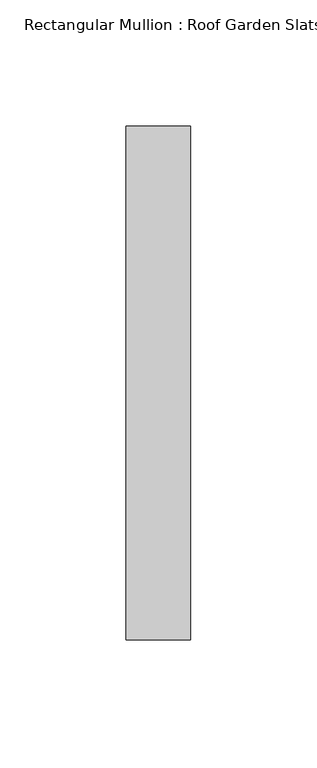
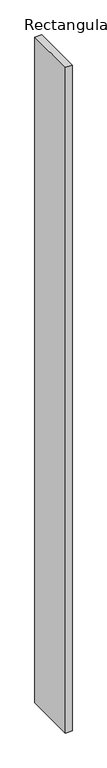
"""IFC4 building model written with IfcOpenShell, lengths in millimetres: member geometry, Rectangular Mullion : Roof Garden Slats."""

from ifc_helpers import new_model, si_unit, frame, origin, place, context, project, spatial, polyline, outline, extrude, source, transform, mapped, element, save


def rectangular_mullion_roof_garden_slats_af7d02ad(model_context):
    return source(origin(), model_context, "Body", "SweptSolid", [
        extrude(outline(polyline([(12.7, 139.7), (12.7, -63.5), (-12.7, -63.5), (-12.7, 139.7), (12.7, 139.7)])), frame((0.0, 0.0, -2707.2653664), z_axis=(0.0, 0.0, 1.0), x_axis=(1.0, 0.0, 0.0)), (0.0, 0.0, 1.0), 2707.2653664),
    ])


if __name__ == "__main__":
    model = new_model("IFC4")
    model_context = context("Model", 3, world=origin())
    ifc_project = project(units=[si_unit("LENGTHUNIT", "METRE", prefix="MILLI")], contexts=[model_context])
    site = spatial("IfcSite", under=ifc_project)
    building = spatial("IfcBuilding", under=site)
    placement = place(None, origin())
    rectangular_mullion_roof_garden_slats_shape = rectangular_mullion_roof_garden_slats_af7d02ad(model_context)
    element("IfcMember", 1, ObjectType="Rectangular Mullion : Roof Garden Slats", at=placement, inside=building, context=model_context, shape_type="MappedRepresentation", body=[
        mapped(rectangular_mullion_roof_garden_slats_shape, transform((0.0, 0.0, 0.0), x_axis=(1.0, 0.0, 0.0), y_axis=(0.0, 1.0, 0.0), z_axis=(0.0, 0.0, 1.0))),
    ])
    save(model, "model.ifc")
